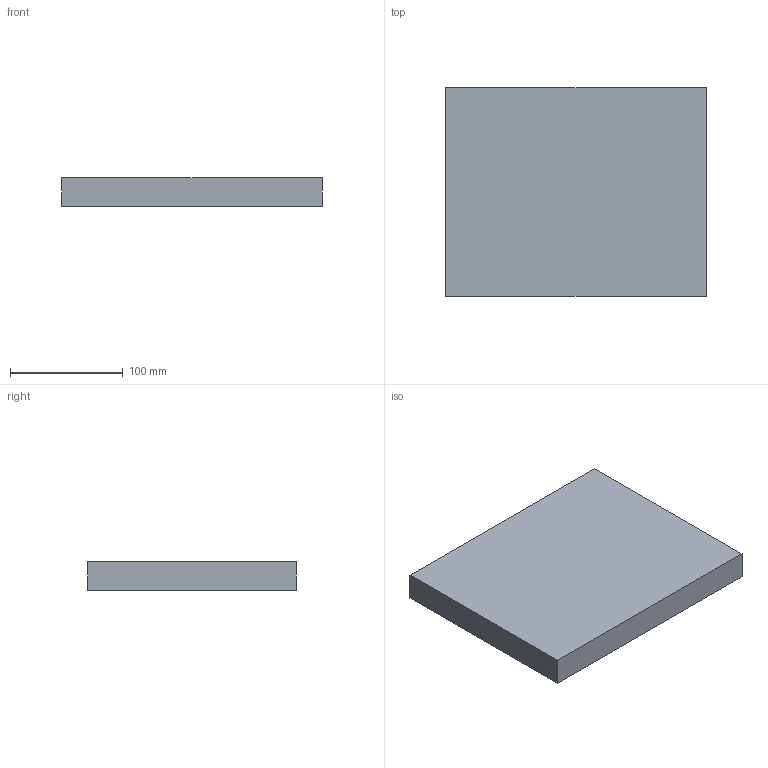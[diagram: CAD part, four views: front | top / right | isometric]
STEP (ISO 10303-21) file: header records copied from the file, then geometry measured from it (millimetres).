
FILE_DESCRIPTION (( 'STEP AP203' ), '1' );
FILE_NAME ('lid inside type 500.STEP', '2013-07-04T12:30:22', ( 'Master' ), ( '' ), 'SwSTEP 2.0', 'SolidWorks 2013', '' );
FILE_SCHEMA (( 'CONFIG_CONTROL_DESIGN' ));
Length unit declared in the file: millimetre
Products named in the file (1): lid inside type 500
Bounding box: 231 x 184.74 x 25 mm (x, y, z)
Volume: 536009.3 mm3; surface area: 116873 mm2
Topology: 1 solids, 1 shells, 99 faces, 232 edges, 140 vertices
Faces by surface type: bspline 68, plane 31
Entity records: 4627 total; most frequent: CARTESIAN_POINT 3076, ORIENTED_EDGE 456, EDGE_CURVE 228, VERTEX_POINT 140, DIRECTION 120, EDGE_LOOP 108, FACE_OUTER_BOUND 99, ADVANCED_FACE 99
